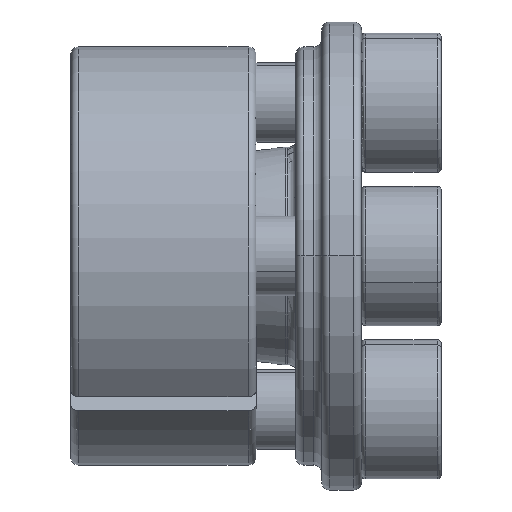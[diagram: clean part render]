
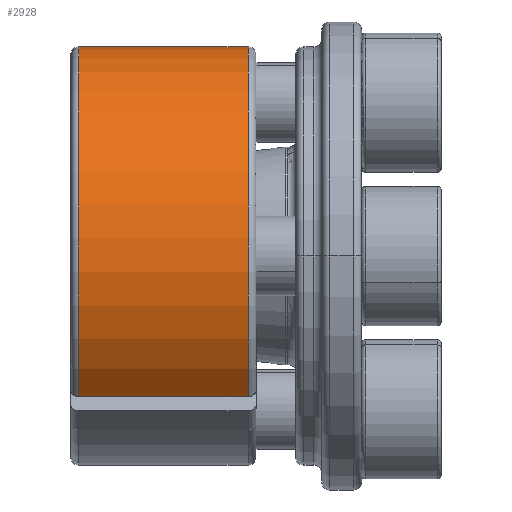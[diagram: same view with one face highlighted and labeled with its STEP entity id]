
A CAD part, front view. The second image highlights one B-rep face of the part: STEP entity #2928.
In plain terms, the highlighted cylindrical face has radius 10.5 mm (diameter 21 mm), a partial arc.
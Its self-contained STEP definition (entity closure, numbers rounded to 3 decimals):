
#2695 = EDGE_CURVE ( 'NONE', #2875, #2876, #5287, .T. ) ;
#2761 = ORIENTED_EDGE ( 'NONE', *, *, #2695, .T. ) ;
#2794 = EDGE_LOOP ( 'NONE', ( #2930, #2761, #2884, #2885 ) ) ;
#2838 = EDGE_CURVE ( 'NONE', #2852, #2855, #5182, .T. ) ;
#2852 = VERTEX_POINT ( 'NONE', #5600 ) ;
#2855 = VERTEX_POINT ( 'NONE', #5599 ) ;
#2874 = EDGE_CURVE ( 'NONE', #2852, #2876, #5679, .T. ) ;
#2875 = VERTEX_POINT ( 'NONE', #5642 ) ;
#2876 = VERTEX_POINT ( 'NONE', #5633 ) ;
#2884 = ORIENTED_EDGE ( 'NONE', *, *, #2874, .F. ) ;
#2885 = ORIENTED_EDGE ( 'NONE', *, *, #2838, .T. ) ;
#2886 = EDGE_CURVE ( 'NONE', #2855, #2875, #5671, .T. ) ;
#2928 = ADVANCED_FACE ( 'NONE', ( #5739 ), #5713, .T. ) ;
#2930 = ORIENTED_EDGE ( 'NONE', *, *, #2886, .T. ) ;
#5104 = CARTESIAN_POINT ( 'NONE',  ( -4.949, -6.879, -7.063 ) ) ;
#5182 = LINE ( 'NONE', #5104, #5304 ) ;
#5275 = DIRECTION ( 'NONE',  ( 1., 0., 0. ) ) ;
#5279 = DIRECTION ( 'NONE',  ( -1., 0., 0. ) ) ;
#5285 = VECTOR ( 'NONE', #5279, 1000. ) ;
#5286 = CARTESIAN_POINT ( 'NONE',  ( -4.949, 0.89, 10.5 ) ) ;
#5287 = LINE ( 'NONE', #5286, #5285 ) ;
#5304 = VECTOR ( 'NONE', #5275, 1000. ) ;
#5563 = CARTESIAN_POINT ( 'NONE',  ( 4.951, 0.89, 0. ) ) ;
#5568 = DIRECTION ( 'NONE',  ( 0., 0., 1. ) ) ;
#5569 = DIRECTION ( 'NONE',  ( -1., 0., 0. ) ) ;
#5570 = CARTESIAN_POINT ( 'NONE',  ( -3.549, 0.89, 0. ) ) ;
#5571 = AXIS2_PLACEMENT_3D ( 'NONE', #5570, #5569, #5568 ) ;
#5599 = CARTESIAN_POINT ( 'NONE',  ( 4.951, -6.879, -7.063 ) ) ;
#5600 = CARTESIAN_POINT ( 'NONE',  ( -3.549, -6.879, -7.063 ) ) ;
#5612 = DIRECTION ( 'NONE',  ( 0., 0., 1. ) ) ;
#5630 = DIRECTION ( 'NONE',  ( -1., 0., 0. ) ) ;
#5633 = CARTESIAN_POINT ( 'NONE',  ( -3.549, 0.89, 10.5 ) ) ;
#5642 = CARTESIAN_POINT ( 'NONE',  ( 4.951, 0.89, 10.5 ) ) ;
#5656 = AXIS2_PLACEMENT_3D ( 'NONE', #5563, #5630, #5612 ) ;
#5671 = CIRCLE ( 'NONE', #5656, 10.5 ) ;
#5679 = CIRCLE ( 'NONE', #5571, 10.5 ) ;
#5713 = CYLINDRICAL_SURFACE ( 'NONE', #5752, 10.5 ) ;
#5726 = CARTESIAN_POINT ( 'NONE',  ( -4.949, 0.89, 0. ) ) ;
#5739 = FACE_OUTER_BOUND ( 'NONE', #2794, .T. ) ;
#5750 = DIRECTION ( 'NONE',  ( -1., 0., 0. ) ) ;
#5752 = AXIS2_PLACEMENT_3D ( 'NONE', #5726, #5750, #5766 ) ;
#5766 = DIRECTION ( 'NONE',  ( 0., 0., 1. ) ) ;
